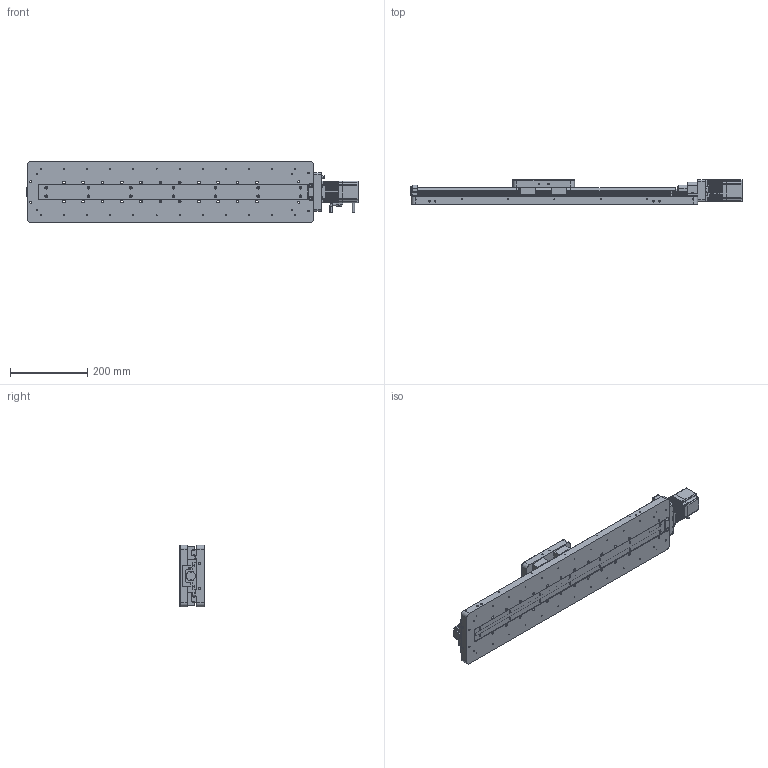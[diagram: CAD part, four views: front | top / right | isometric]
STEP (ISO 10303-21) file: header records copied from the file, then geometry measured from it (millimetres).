
FILE_DESCRIPTION (( 'STEP AP203' ), '1' );
FILE_NAME ('7STA09500Cµç¶¯Æ½ÒÆÌ¨.STEP', '2022-04-14T05:25:01', ( '' ), ( '' ), 'SwSTEP 2.0', 'SolidWorks 2018', '' );
FILE_SCHEMA (( 'CONFIG_CONTROL_DESIGN' ));
Products named in the file (1): 7STA09500C萇雄す痄怢
Bounding box: 861 x 64 x 160 mm (x, y, z)
Surface area: 566160.1 mm2 (no closed solid volume)
Topology: 0 solids, 520 shells, 2504 faces, 8751 edges, 6705 vertices
Faces by surface type: cylinder 1271, plane 1055, torus 90, cone 54, sphere 24, bspline 10
Entity records: 94945 total; most frequent: CARTESIAN_POINT 19399, DIRECTION 16907, ORIENTED_EDGE 12076, EDGE_CURVE 8695, VERTEX_POINT 6681, AXIS2_PLACEMENT_3D 5905, LINE 5097, VECTOR 5097
